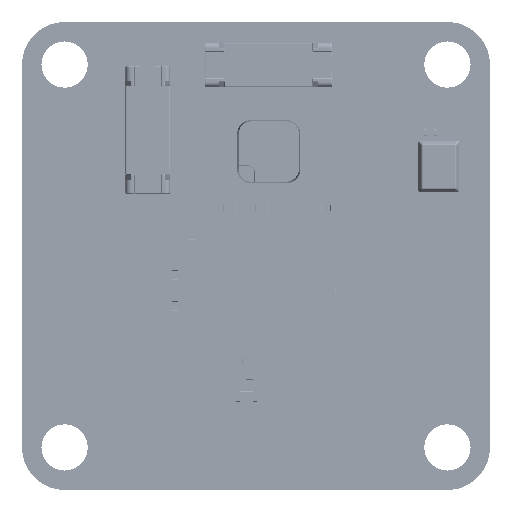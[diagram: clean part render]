
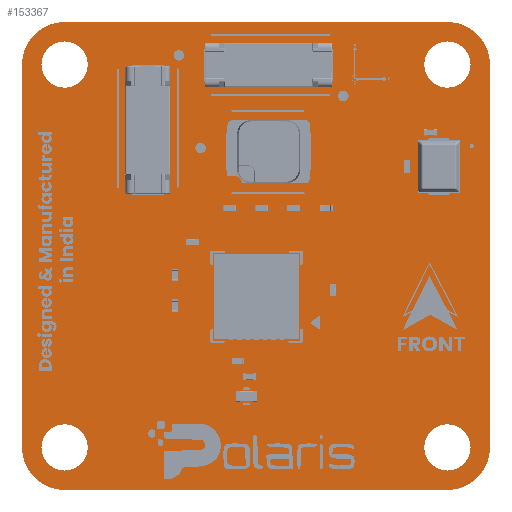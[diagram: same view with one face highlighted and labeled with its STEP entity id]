
A CAD part, top view. The second image highlights one B-rep face of the part: STEP entity #153367.
In plain terms, the highlighted planar face has unit normal (0, 0, 1).
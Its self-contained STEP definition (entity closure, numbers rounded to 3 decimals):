
#153367 = ADVANCED_FACE('',(#153368,#153502,#153513,#153524,#153535),
  #153546,.T.);
#153368 = FACE_BOUND('',#153369,.F.);
#153369 = EDGE_LOOP('',(#153370,#153381,#153389,#153397,#153405,#153414,
    #153422,#153430,#153438,#153447,#153455,#153463,#153471,#153480,
    #153488,#153496));
#153370 = ORIENTED_EDGE('',*,*,#153371,.T.);
#153371 = EDGE_CURVE('',#153372,#153374,#153376,.T.);
#153372 = VERTEX_POINT('',#153373);
#153373 = CARTESIAN_POINT('',(2.003,21.143,1.56));
#153374 = VERTEX_POINT('',#153375);
#153375 = CARTESIAN_POINT('',(3.857,22.997,1.56));
#153376 = CIRCLE('',#153377,2.003);
#153377 = AXIS2_PLACEMENT_3D('',#153378,#153379,#153380);
#153378 = CARTESIAN_POINT('',(4.,21.,1.56));
#153379 = DIRECTION('',(0.,0.,-1.));
#153380 = DIRECTION('',(-0.997,0.071,0.));
#153381 = ORIENTED_EDGE('',*,*,#153382,.T.);
#153382 = EDGE_CURVE('',#153374,#153383,#153385,.T.);
#153383 = VERTEX_POINT('',#153384);
#153384 = CARTESIAN_POINT('',(4.,23.,1.56));
#153385 = LINE('',#153386,#153387);
#153386 = CARTESIAN_POINT('',(3.857,22.997,1.56));
#153387 = VECTOR('',#153388,1.);
#153388 = DIRECTION('',(1.,0.018,0.));
#153389 = ORIENTED_EDGE('',*,*,#153390,.T.);
#153390 = EDGE_CURVE('',#153383,#153391,#153393,.T.);
#153391 = VERTEX_POINT('',#153392);
#153392 = CARTESIAN_POINT('',(22.,23.,1.56));
#153393 = LINE('',#153394,#153395);
#153394 = CARTESIAN_POINT('',(4.,23.,1.56));
#153395 = VECTOR('',#153396,1.);
#153396 = DIRECTION('',(1.,0.,0.));
#153397 = ORIENTED_EDGE('',*,*,#153398,.T.);
#153398 = EDGE_CURVE('',#153391,#153399,#153401,.T.);
#153399 = VERTEX_POINT('',#153400);
#153400 = CARTESIAN_POINT('',(22.143,22.998,1.56));
#153401 = LINE('',#153402,#153403);
#153402 = CARTESIAN_POINT('',(22.,23.,1.56));
#153403 = VECTOR('',#153404,1.);
#153404 = DIRECTION('',(1.,-0.017,0.));
#153405 = ORIENTED_EDGE('',*,*,#153406,.T.);
#153406 = EDGE_CURVE('',#153399,#153407,#153409,.T.);
#153407 = VERTEX_POINT('',#153408);
#153408 = CARTESIAN_POINT('',(23.998,21.143,1.56));
#153409 = CIRCLE('',#153410,2.003);
#153410 = AXIS2_PLACEMENT_3D('',#153411,#153412,#153413);
#153411 = CARTESIAN_POINT('',(22.,21.,1.56));
#153412 = DIRECTION('',(0.,0.,-1.));
#153413 = DIRECTION('',(0.071,0.997,0.));
#153414 = ORIENTED_EDGE('',*,*,#153415,.T.);
#153415 = EDGE_CURVE('',#153407,#153416,#153418,.T.);
#153416 = VERTEX_POINT('',#153417);
#153417 = CARTESIAN_POINT('',(24.,21.,1.56));
#153418 = LINE('',#153419,#153420);
#153419 = CARTESIAN_POINT('',(23.998,21.143,1.56));
#153420 = VECTOR('',#153421,1.);
#153421 = DIRECTION('',(0.017,-1.,0.));
#153422 = ORIENTED_EDGE('',*,*,#153423,.T.);
#153423 = EDGE_CURVE('',#153416,#153424,#153426,.T.);
#153424 = VERTEX_POINT('',#153425);
#153425 = CARTESIAN_POINT('',(24.,3.,1.56));
#153426 = LINE('',#153427,#153428);
#153427 = CARTESIAN_POINT('',(24.,21.,1.56));
#153428 = VECTOR('',#153429,1.);
#153429 = DIRECTION('',(0.,-1.,0.));
#153430 = ORIENTED_EDGE('',*,*,#153431,.T.);
#153431 = EDGE_CURVE('',#153424,#153432,#153434,.T.);
#153432 = VERTEX_POINT('',#153433);
#153433 = CARTESIAN_POINT('',(23.998,2.857,1.56));
#153434 = LINE('',#153435,#153436);
#153435 = CARTESIAN_POINT('',(24.,3.,1.56));
#153436 = VECTOR('',#153437,1.);
#153437 = DIRECTION('',(-0.017,-1.,0.));
#153438 = ORIENTED_EDGE('',*,*,#153439,.T.);
#153439 = EDGE_CURVE('',#153432,#153440,#153442,.T.);
#153440 = VERTEX_POINT('',#153441);
#153441 = CARTESIAN_POINT('',(22.143,1.002,1.56));
#153442 = CIRCLE('',#153443,2.003);
#153443 = AXIS2_PLACEMENT_3D('',#153444,#153445,#153446);
#153444 = CARTESIAN_POINT('',(22.,3.,1.56));
#153445 = DIRECTION('',(0.,0.,-1.));
#153446 = DIRECTION('',(0.997,-0.071,0.));
#153447 = ORIENTED_EDGE('',*,*,#153448,.T.);
#153448 = EDGE_CURVE('',#153440,#153449,#153451,.T.);
#153449 = VERTEX_POINT('',#153450);
#153450 = CARTESIAN_POINT('',(22.,1.,1.56));
#153451 = LINE('',#153452,#153453);
#153452 = CARTESIAN_POINT('',(22.143,1.002,1.56));
#153453 = VECTOR('',#153454,1.);
#153454 = DIRECTION('',(-1.,-0.017,0.));
#153455 = ORIENTED_EDGE('',*,*,#153456,.T.);
#153456 = EDGE_CURVE('',#153449,#153457,#153459,.T.);
#153457 = VERTEX_POINT('',#153458);
#153458 = CARTESIAN_POINT('',(4.,1.,1.56));
#153459 = LINE('',#153460,#153461);
#153460 = CARTESIAN_POINT('',(22.,1.,1.56));
#153461 = VECTOR('',#153462,1.);
#153462 = DIRECTION('',(-1.,0.,0.));
#153463 = ORIENTED_EDGE('',*,*,#153464,.T.);
#153464 = EDGE_CURVE('',#153457,#153465,#153467,.T.);
#153465 = VERTEX_POINT('',#153466);
#153466 = CARTESIAN_POINT('',(3.857,1.003,1.56));
#153467 = LINE('',#153468,#153469);
#153468 = CARTESIAN_POINT('',(4.,1.,1.56));
#153469 = VECTOR('',#153470,1.);
#153470 = DIRECTION('',(-1.,0.018,0.));
#153471 = ORIENTED_EDGE('',*,*,#153472,.T.);
#153472 = EDGE_CURVE('',#153465,#153473,#153475,.T.);
#153473 = VERTEX_POINT('',#153474);
#153474 = CARTESIAN_POINT('',(2.003,2.857,1.56));
#153475 = CIRCLE('',#153476,2.003);
#153476 = AXIS2_PLACEMENT_3D('',#153477,#153478,#153479);
#153477 = CARTESIAN_POINT('',(4.,3.,1.56));
#153478 = DIRECTION('',(0.,0.,-1.));
#153479 = DIRECTION('',(-0.071,-0.997,-0.));
#153480 = ORIENTED_EDGE('',*,*,#153481,.T.);
#153481 = EDGE_CURVE('',#153473,#153482,#153484,.T.);
#153482 = VERTEX_POINT('',#153483);
#153483 = CARTESIAN_POINT('',(2.,3.,1.56));
#153484 = LINE('',#153485,#153486);
#153485 = CARTESIAN_POINT('',(2.003,2.857,1.56));
#153486 = VECTOR('',#153487,1.);
#153487 = DIRECTION('',(-0.018,1.,0.));
#153488 = ORIENTED_EDGE('',*,*,#153489,.T.);
#153489 = EDGE_CURVE('',#153482,#153490,#153492,.T.);
#153490 = VERTEX_POINT('',#153491);
#153491 = CARTESIAN_POINT('',(2.,21.,1.56));
#153492 = LINE('',#153493,#153494);
#153493 = CARTESIAN_POINT('',(2.,3.,1.56));
#153494 = VECTOR('',#153495,1.);
#153495 = DIRECTION('',(0.,1.,0.));
#153496 = ORIENTED_EDGE('',*,*,#153497,.T.);
#153497 = EDGE_CURVE('',#153490,#153372,#153498,.T.);
#153498 = LINE('',#153499,#153500);
#153499 = CARTESIAN_POINT('',(2.,21.,1.56));
#153500 = VECTOR('',#153501,1.);
#153501 = DIRECTION('',(0.018,1.,0.));
#153502 = FACE_BOUND('',#153503,.F.);
#153503 = EDGE_LOOP('',(#153504));
#153504 = ORIENTED_EDGE('',*,*,#153505,.T.);
#153505 = EDGE_CURVE('',#153506,#153506,#153508,.T.);
#153506 = VERTEX_POINT('',#153507);
#153507 = CARTESIAN_POINT('',(5.087,3.,1.56));
#153508 = CIRCLE('',#153509,1.087);
#153509 = AXIS2_PLACEMENT_3D('',#153510,#153511,#153512);
#153510 = CARTESIAN_POINT('',(4.,3.,1.56));
#153511 = DIRECTION('',(0.,0.,1.));
#153512 = DIRECTION('',(1.,0.,-0.));
#153513 = FACE_BOUND('',#153514,.F.);
#153514 = EDGE_LOOP('',(#153515));
#153515 = ORIENTED_EDGE('',*,*,#153516,.T.);
#153516 = EDGE_CURVE('',#153517,#153517,#153519,.T.);
#153517 = VERTEX_POINT('',#153518);
#153518 = CARTESIAN_POINT('',(23.087,3.,1.56));
#153519 = CIRCLE('',#153520,1.087);
#153520 = AXIS2_PLACEMENT_3D('',#153521,#153522,#153523);
#153521 = CARTESIAN_POINT('',(22.,3.,1.56));
#153522 = DIRECTION('',(0.,0.,1.));
#153523 = DIRECTION('',(1.,0.,-0.));
#153524 = FACE_BOUND('',#153525,.F.);
#153525 = EDGE_LOOP('',(#153526));
#153526 = ORIENTED_EDGE('',*,*,#153527,.T.);
#153527 = EDGE_CURVE('',#153528,#153528,#153530,.T.);
#153528 = VERTEX_POINT('',#153529);
#153529 = CARTESIAN_POINT('',(5.087,21.,1.56));
#153530 = CIRCLE('',#153531,1.087);
#153531 = AXIS2_PLACEMENT_3D('',#153532,#153533,#153534);
#153532 = CARTESIAN_POINT('',(4.,21.,1.56));
#153533 = DIRECTION('',(0.,0.,1.));
#153534 = DIRECTION('',(1.,0.,-0.));
#153535 = FACE_BOUND('',#153536,.F.);
#153536 = EDGE_LOOP('',(#153537));
#153537 = ORIENTED_EDGE('',*,*,#153538,.T.);
#153538 = EDGE_CURVE('',#153539,#153539,#153541,.T.);
#153539 = VERTEX_POINT('',#153540);
#153540 = CARTESIAN_POINT('',(23.087,21.,1.56));
#153541 = CIRCLE('',#153542,1.087);
#153542 = AXIS2_PLACEMENT_3D('',#153543,#153544,#153545);
#153543 = CARTESIAN_POINT('',(22.,21.,1.56));
#153544 = DIRECTION('',(0.,0.,1.));
#153545 = DIRECTION('',(1.,0.,-0.));
#153546 = PLANE('',#153547);
#153547 = AXIS2_PLACEMENT_3D('',#153548,#153549,#153550);
#153548 = CARTESIAN_POINT('',(0.,0.,1.56));
#153549 = DIRECTION('',(0.,0.,1.));
#153550 = DIRECTION('',(1.,0.,-0.));
